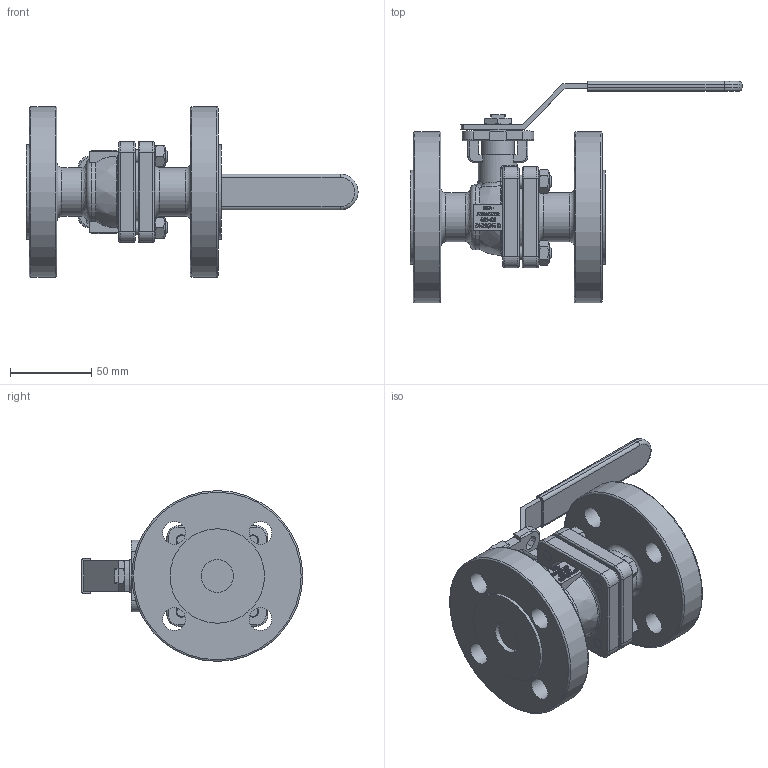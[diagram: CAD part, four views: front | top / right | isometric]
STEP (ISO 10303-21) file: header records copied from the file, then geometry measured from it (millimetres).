
FILE_DESCRIPTION((''),'2;1');
FILE_NAME('K:\Inventor\1 Artikel\12) Flanschen-Kugelhähne\12a) manuell\Econosto\465-GS, PN40, 7249\465-GS, DN20\465-GS, DN20, 3D\465-GS, DN20, PN40, HH, 3D.stp','2019-11-21T13:59:35',('claudia'),(''),'Autodesk Inventor 2013','Autodesk Inventor 2013','');
FILE_SCHEMA(('AUTOMOTIVE_DESIGN { 1 0 10303 214 1 1 1 1 }'));
Length unit declared in the file: millimetre
Products named in the file (1): Bauteil3
Bounding box: 204 x 136.1 x 105 mm (x, y, z)
Volume: 464016.9 mm3; surface area: 88142.1 mm2
Topology: 1 solids, 1 shells, 1442 faces, 3850 edges, 2538 vertices
Faces by surface type: plane 739, bspline 527, cylinder 104, torus 44, cone 28
Full cylindrical faces by diameter (mm): 6.647 x4, 8 x8, 8.5 x4, 14 x8, 20 x3, 24 x1, 28 x1, 30 x2, 50 x1, 58 x2, 105 x2
Entity records: 49304 total; most frequent: CARTESIAN_POINT 16839, ORIENTED_EDGE 7544, DIRECTION 4770, EDGE_CURVE 3772, VERTEX_POINT 2520, VECTOR 2324, LINE 2324, EDGE_LOOP 1666
